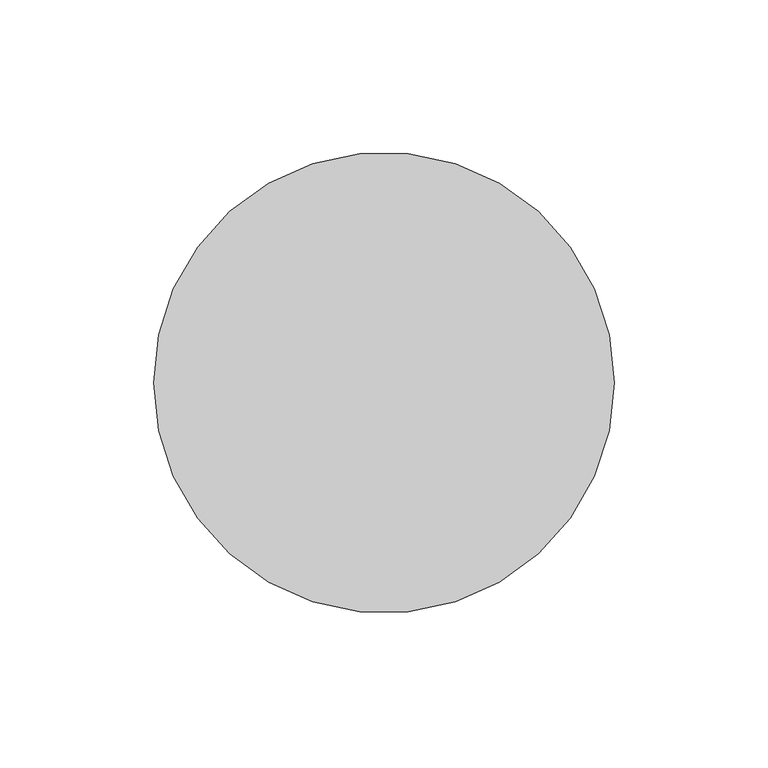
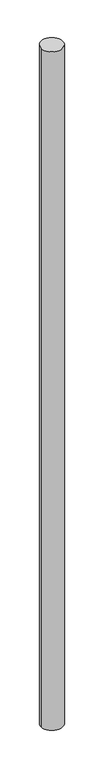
"""IFC4 building model written with IfcOpenShell, lengths in millimetres: flow terminal geometry, SP_Стояки : К."""

from ifc_helpers import new_model, si_unit, point, frame, frame_2d, origin, place, context, project, spatial, circle_curve, trimmed, segment, composite_curve, outline, extrude, source, transform, mapped, element, save


def flow_terminal_368cde74(model_context):
    return source(origin(), model_context, "Body", "SweptSolid", [
        extrude(outline(composite_curve([segment(trimmed(circle_curve(frame_2d((100.0, 94.7596685)), 75.0), [point((25.0, 94.7596685))], [point((175.0, 94.7596685))], False, "CARTESIAN"), True, "CONTINUOUS"), segment(trimmed(circle_curve(frame_2d((100.0, 94.7596685)), 75.0), [point((175.0, 94.7596685))], [point((25.0, 94.7596685))], False, "CARTESIAN"), True, "CONTINUOUS")], self_intersect=False)), frame((0.0, 0.0, 24750.0), z_axis=(0.0, 0.0, 1.0), x_axis=(1.0, 0.0, 0.0)), (0.0, 0.0, 1.0), 4950.0),
    ])


if __name__ == "__main__":
    model = new_model("IFC4")
    model_context = context("Model", 3, world=origin())
    ifc_project = project(units=[si_unit("LENGTHUNIT", "METRE", prefix="MILLI")], contexts=[model_context])
    site = spatial("IfcSite", under=ifc_project)
    building = spatial("IfcBuilding", under=site)
    placement = place(None, origin())
    flow_terminal_shape = flow_terminal_368cde74(model_context)
    element("IfcFlowTerminal", 1, ObjectType="SP_Стояки : К", at=placement, inside=building, context=model_context, shape_type="MappedRepresentation", body=[
        mapped(flow_terminal_shape, transform((0.0, 0.0, 0.0), x_axis=(1.0, 0.0, 0.0), y_axis=(0.0, 1.0, 0.0), z_axis=(0.0, 0.0, 1.0))),
    ])
    save(model, "model.ifc")
